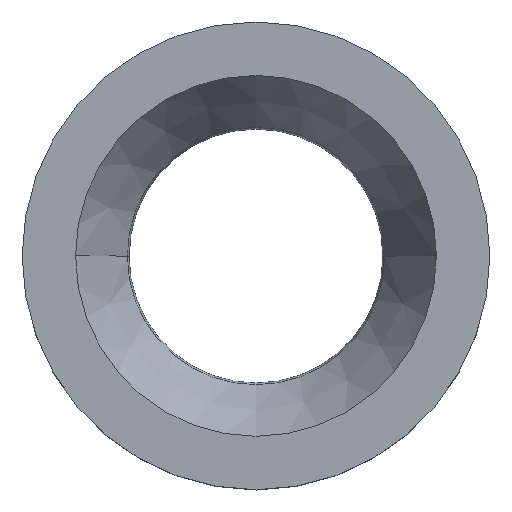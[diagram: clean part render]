
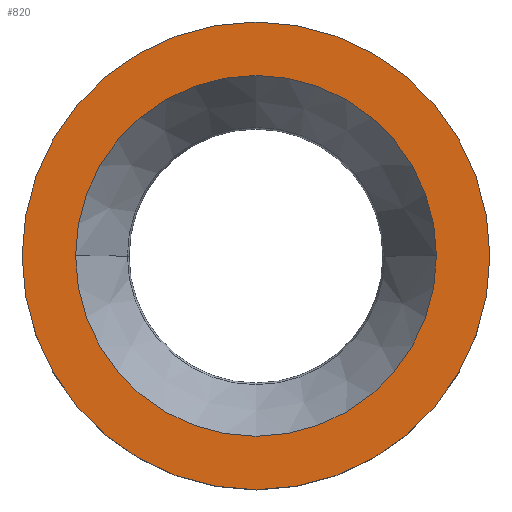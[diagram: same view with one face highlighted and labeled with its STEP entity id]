
A CAD part, top view. The second image highlights one B-rep face of the part: STEP entity #820.
In plain terms, the highlighted planar face has unit normal (0, 0, 1).
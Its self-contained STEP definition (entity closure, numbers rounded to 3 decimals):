
#125=CARTESIAN_POINT('',(0.,0.,22.));
#126=DIRECTION('',(0.,0.,1.));
#127=DIRECTION('',(1.,0.,0.));
#128=AXIS2_PLACEMENT_3D('',#125,#126,#127);
#130=CARTESIAN_POINT('',(0.,0.,22.));
#131=DIRECTION('',(0.,0.,1.));
#132=DIRECTION('',(-1.,0.,0.));
#133=AXIS2_PLACEMENT_3D('',#130,#131,#132);
#135=CARTESIAN_POINT('',(0.,0.,22.));
#136=DIRECTION('',(0.,0.,-1.));
#137=DIRECTION('',(1.,0.,0.));
#138=AXIS2_PLACEMENT_3D('',#135,#136,#137);
#140=CARTESIAN_POINT('',(0.,0.,22.));
#141=DIRECTION('',(0.,0.,-1.));
#142=DIRECTION('',(-1.,0.,0.));
#143=AXIS2_PLACEMENT_3D('',#140,#141,#142);
#515=CARTESIAN_POINT('',(35.,0.,22.));
#516=CARTESIAN_POINT('',(-35.,0.,22.));
#517=VERTEX_POINT('',#515);
#518=VERTEX_POINT('',#516);
#519=CARTESIAN_POINT('',(27.,0.,22.));
#520=CARTESIAN_POINT('',(-27.,0.,22.));
#521=VERTEX_POINT('',#519);
#522=VERTEX_POINT('',#520);
#805=CARTESIAN_POINT('',(0.,0.,22.));
#806=DIRECTION('',(0.,0.,1.));
#807=DIRECTION('',(1.,0.,0.));
#808=AXIS2_PLACEMENT_3D('',#805,#806,#807);
#809=PLANE('',#808);
#811=ORIENTED_EDGE('',*,*,#810,.F.);
#813=ORIENTED_EDGE('',*,*,#812,.F.);
#814=EDGE_LOOP('',(#811,#813));
#815=FACE_OUTER_BOUND('',#814,.F.);
#816=ORIENTED_EDGE('',*,*,#785,.F.);
#817=ORIENTED_EDGE('',*,*,#799,.F.);
#818=EDGE_LOOP('',(#816,#817));
#819=FACE_BOUND('',#818,.F.);
#129=CIRCLE('',#128,35.);
#134=CIRCLE('',#133,35.);
#139=CIRCLE('',#138,27.);
#144=CIRCLE('',#143,27.);
#785=EDGE_CURVE('',#521,#522,#139,.T.);
#799=EDGE_CURVE('',#522,#521,#144,.T.);
#810=EDGE_CURVE('',#517,#518,#129,.T.);
#812=EDGE_CURVE('',#518,#517,#134,.T.);
#820=ADVANCED_FACE('',(#815,#819),#809,.T.);
